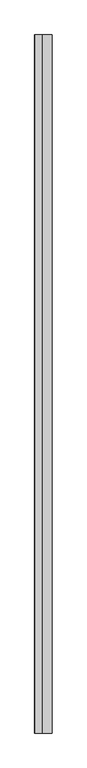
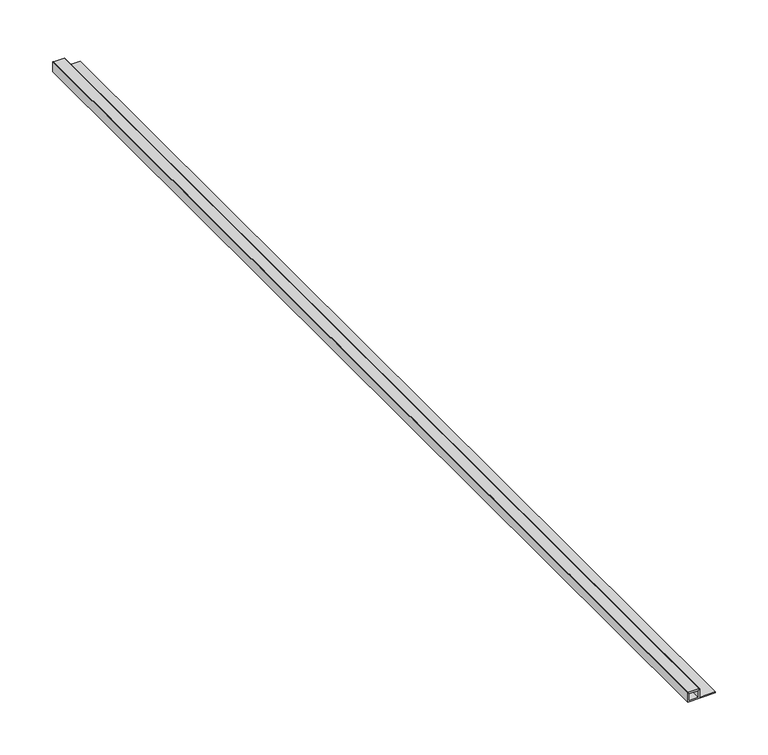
"""IFC4 building model written with IfcOpenShell, lengths in millimetres: proxy geometry, PORTOBELLO - METALLICA MET LUMI : LUMI CORNER 1,3X120."""

from ifc_helpers import new_model, si_unit, frame, origin, place, context, project, spatial, polyline, outline, extrude, source, transform, mapped, element, save


def generic_models_0d7baa48(model_context):
    return source(origin(), model_context, "Body", "SweptSolid", [
        extrude(outline(polyline([(0.6476279, -5.7), (0.0, -5.0523721), (0.0, 5.0523721), (0.6476279, 5.7), (1.9199818, 5.7), (1.9199818, -5.7), (0.6476279, -5.7)])), frame((0.0, -600.0, 0.0), z_axis=(0.0, 1.0, 0.0), x_axis=(0.0, 0.0, 1.0)), (0.0, 0.0, 1.0), 1200.0),
        extrude(outline(polyline([(-9.0740099, -6.5), (-9.0740099, 23.5), (-7.7961553, 23.5), (-7.7961553, 6.5), (1.9199818, 6.5), (1.9199818, 5.7), (0.6476279, 5.7), (0.0, 5.0523721), (-7.7961553, 5.0523721), (-7.7961553, -5.0523721), (0.0, -5.0523721), (0.6476279, -5.7), (1.9199818, -5.7), (1.9199818, -6.5), (-9.0740099, -6.5)])), frame((0.0, -600.0, 0.0), z_axis=(0.0, 1.0, 0.0), x_axis=(0.0, 0.0, 1.0)), (0.0, 0.0, 1.0), 1200.0),
    ])


if __name__ == "__main__":
    model = new_model("IFC4")
    model_context = context("Model", 3, world=origin())
    ifc_project = project(units=[si_unit("LENGTHUNIT", "METRE", prefix="MILLI")], contexts=[model_context])
    site = spatial("IfcSite", under=ifc_project)
    building = spatial("IfcBuilding", under=site)
    placement = place(None, origin())
    generic_models_shape = generic_models_0d7baa48(model_context)
    element("IfcBuildingElementProxy", 1, Name="PORTOBELLO - METALLICA MET LUMI : LUMI CORNER 1,3X120", ObjectType="PORTOBELLO - METALLICA MET LUMI : LUMI CORNER 1,3X120", at=placement, inside=building, context=model_context, shape_type="MappedRepresentation", body=[
        mapped(generic_models_shape, transform((0.0, 0.0, 0.0), x_axis=(1.0, 0.0, 0.0), y_axis=(0.0, 1.0, 0.0), z_axis=(0.0, 0.0, 1.0))),
    ])
    save(model, "model.ifc")
